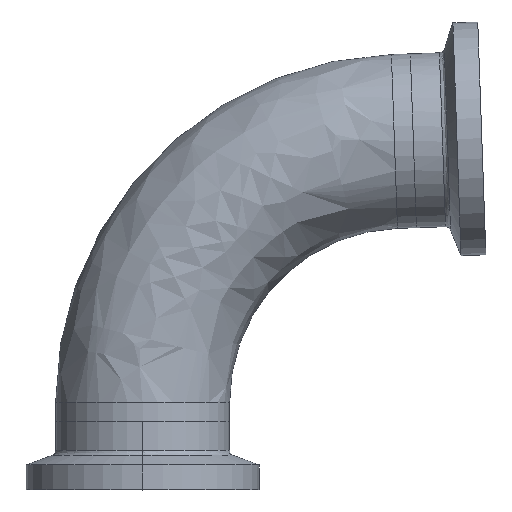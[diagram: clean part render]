
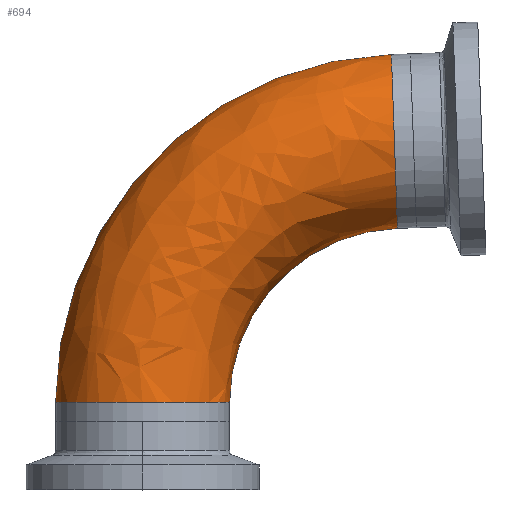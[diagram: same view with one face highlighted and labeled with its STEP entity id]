
A CAD part, top view. The second image highlights one B-rep face of the part: STEP entity #694.
In plain terms, the highlighted free-form (B-spline) face has degree [3, 3] with [4, 4] control points.
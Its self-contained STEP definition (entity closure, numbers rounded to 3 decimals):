
#30 = EDGE_CURVE ( 'NONE', #728, #1608, #1447, .T. ) ;
#66 = CARTESIAN_POINT ( 'NONE',  ( 12.7, 17.258, 25.4 ) ) ;
#85 = CARTESIAN_POINT ( 'NONE',  ( -12.7, 2.788, 0. ) ) ;
#132 = CARTESIAN_POINT ( 'NONE',  ( -12.7, 31.728, 25.4 ) ) ;
#199 = EDGE_CURVE ( 'NONE', #475, #728, #722, .T. ) ;
#204 = DIRECTION ( 'NONE',  ( 0., 1., 0. ) ) ;
#234 = CARTESIAN_POINT ( 'NONE',  ( 7.404, 52.547, 25.4 ) ) ;
#437 = CARTESIAN_POINT ( 'NONE',  ( 36.77, 40.864, 0. ) ) ;
#458 = ORIENTED_EDGE ( 'NONE', *, *, #1848, .T. ) ;
#471 = CIRCLE ( 'NONE', #1322, 12.7 ) ;
#475 = VERTEX_POINT ( 'NONE', #1010 ) ;
#496 = CARTESIAN_POINT ( 'NONE',  ( -12.7, 2.788, 25.4 ) ) ;
#502 = CARTESIAN_POINT ( 'NONE',  ( 0., 2.788, 0. ) ) ;
#551 = ORIENTED_EDGE ( 'NONE', *, *, #30, .T. ) ;
#564 = DIRECTION ( 'NONE',  ( -0.035, 0.999, 0. ) ) ;
#577 =( BOUNDED_SURFACE ( )  B_SPLINE_SURFACE ( 3, 3, ( 
 ( #85, #1281, #1037, #1016 ),
 ( #496, #132, #234, #1024 ),
 ( #969, #66, #887, #989 ),
 ( #880, #841, #857, #826 ) ),
 .UNSPECIFIED., .F., .F., .F. ) 
 B_SPLINE_SURFACE_WITH_KNOTS ( ( 4, 4 ),
 ( 4, 4 ),
 ( 0., 1. ),
 ( 0., 1. ),
 .UNSPECIFIED. ) 
 GEOMETRIC_REPRESENTATION_ITEM ( )  RATIONAL_B_SPLINE_SURFACE ( (
 ( 1., 0.813, 0.813, 1.),
 ( 0.333, 0.271, 0.271, 0.333),
 ( 0.333, 0.271, 0.271, 0.333),
 ( 1., 0.813, 0.813, 1.) ) ) 
 REPRESENTATION_ITEM ( '' )  SURFACE ( )  );
#670 = AXIS2_PLACEMENT_3D ( 'NONE', #852, #1769, #1803 ) ;
#677 = CARTESIAN_POINT ( 'NONE',  ( 37.214, 28.172, 0. ) ) ;
#686 = DIRECTION ( 'NONE',  ( -0.999, -0.035, 0. ) ) ;
#694 = ADVANCED_FACE ( 'NONE', ( #1300 ), #577, .T. ) ;
#722 = CIRCLE ( 'NONE', #725, 12.7 ) ;
#725 = AXIS2_PLACEMENT_3D ( 'NONE', #502, #204, #1099 ) ;
#728 = VERTEX_POINT ( 'NONE', #798 ) ;
#729 = AXIS2_PLACEMENT_3D ( 'NONE', #1298, #985, #1190 ) ;
#798 = CARTESIAN_POINT ( 'NONE',  ( 12.7, 2.788, 0. ) ) ;
#826 = CARTESIAN_POINT ( 'NONE',  ( 37.214, 28.172, 0. ) ) ;
#841 = CARTESIAN_POINT ( 'NONE',  ( 12.7, 17.258, 0. ) ) ;
#852 = CARTESIAN_POINT ( 'NONE',  ( 38.1, 2.788, 0. ) ) ;
#857 = CARTESIAN_POINT ( 'NONE',  ( 22.752, 27.667, 0. ) ) ;
#870 = VERTEX_POINT ( 'NONE', #1980 ) ;
#880 = CARTESIAN_POINT ( 'NONE',  ( 12.7, 2.788, 0. ) ) ;
#887 = CARTESIAN_POINT ( 'NONE',  ( 22.752, 27.667, 25.4 ) ) ;
#900 = ORIENTED_EDGE ( 'NONE', *, *, #199, .T. ) ;
#963 = EDGE_LOOP ( 'NONE', ( #900, #551, #458, #1523 ) ) ;
#969 = CARTESIAN_POINT ( 'NONE',  ( 12.7, 2.788, 25.4 ) ) ;
#985 = DIRECTION ( 'NONE',  ( 0., 0., -1. ) ) ;
#989 = CARTESIAN_POINT ( 'NONE',  ( 37.214, 28.172, 25.4 ) ) ;
#1010 = CARTESIAN_POINT ( 'NONE',  ( -12.7, 2.788, 0. ) ) ;
#1016 = CARTESIAN_POINT ( 'NONE',  ( 36.327, 53.557, 0. ) ) ;
#1024 = CARTESIAN_POINT ( 'NONE',  ( 36.327, 53.557, 25.4 ) ) ;
#1037 = CARTESIAN_POINT ( 'NONE',  ( 7.404, 52.547, 0. ) ) ;
#1099 = DIRECTION ( 'NONE',  ( -1., 0., 0. ) ) ;
#1190 = DIRECTION ( 'NONE',  ( -1., 0., 0. ) ) ;
#1281 = CARTESIAN_POINT ( 'NONE',  ( -12.7, 31.728, 0. ) ) ;
#1298 = CARTESIAN_POINT ( 'NONE',  ( 38.1, 2.788, 0. ) ) ;
#1300 = FACE_OUTER_BOUND ( 'NONE', #963, .T. ) ;
#1322 = AXIS2_PLACEMENT_3D ( 'NONE', #437, #686, #564 ) ;
#1447 = CIRCLE ( 'NONE', #729, 25.4 ) ;
#1523 = ORIENTED_EDGE ( 'NONE', *, *, #1922, .F. ) ;
#1567 = CIRCLE ( 'NONE', #670, 50.8 ) ;
#1608 = VERTEX_POINT ( 'NONE', #677 ) ;
#1769 = DIRECTION ( 'NONE',  ( 0., 0., -1. ) ) ;
#1803 = DIRECTION ( 'NONE',  ( -1., 0., 0. ) ) ;
#1848 = EDGE_CURVE ( 'NONE', #1608, #870, #471, .T. ) ;
#1922 = EDGE_CURVE ( 'NONE', #475, #870, #1567, .T. ) ;
#1980 = CARTESIAN_POINT ( 'NONE',  ( 36.327, 53.557, 0. ) ) ;
